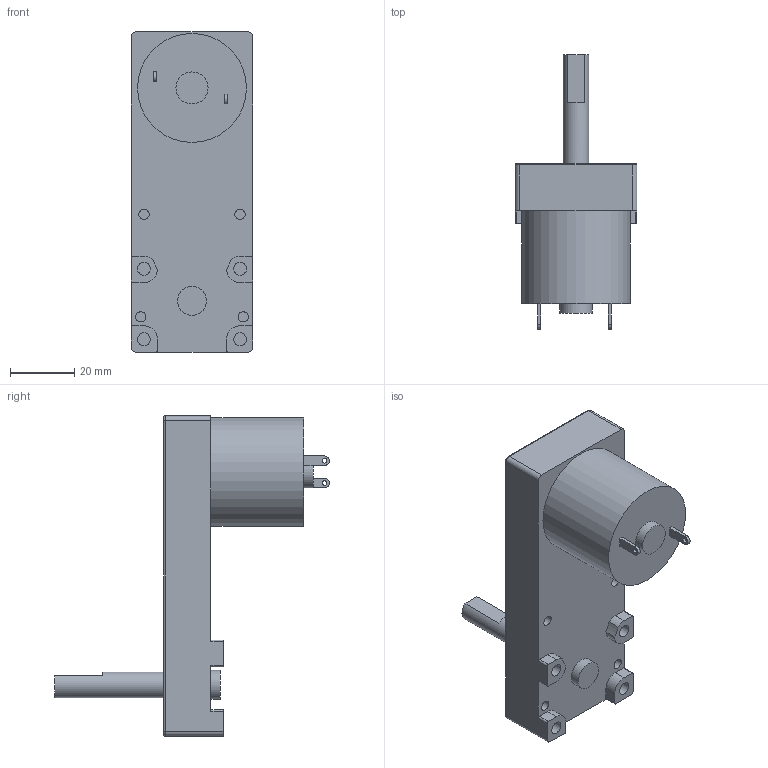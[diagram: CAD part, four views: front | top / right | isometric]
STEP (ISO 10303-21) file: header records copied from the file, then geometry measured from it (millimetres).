
FILE_DESCRIPTION((''),'2;1');
FILE_NAME('E:\2공장-도면\3D\표준형 3D(민규)\1공장 step\KGF F TYPE.stp','2015-02-26T12:23:38',('AHN'),(''),'Autodesk Inventor 2012','Autodesk Inventor 2012','');
FILE_SCHEMA(('CONFIG_CONTROL_DESIGN'));
Length unit declared in the file: millimetre
Products named in the file (1): KGF F타입
Bounding box: 38 x 85.8 x 100 mm (x, y, z)
Volume: 85192.1 mm3; surface area: 16743.2 mm2
Topology: 1 solids, 1 shells, 84 faces, 196 edges, 128 vertices
Faces by surface type: plane 40, cylinder 40, torus 4
Full cylindrical faces by diameter (mm): 1.5 x2, 3.2 x4, 4 x4, 8 x1, 9 x1, 10 x1, 34 x1
Entity records: 2376 total; most frequent: DIRECTION 436, CARTESIAN_POINT 393, ORIENTED_EDGE 362, EDGE_CURVE 181, AXIS2_PLACEMENT_3D 170, VERTEX_POINT 127, EDGE_LOOP 116, VECTOR 96
